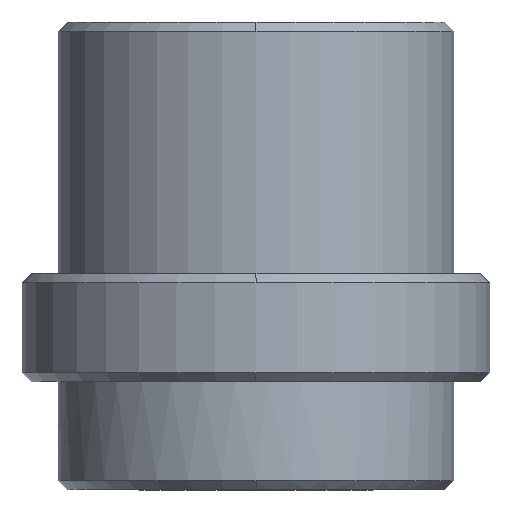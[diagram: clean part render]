
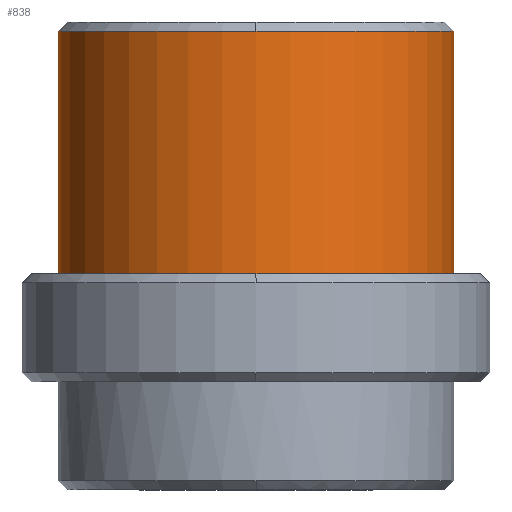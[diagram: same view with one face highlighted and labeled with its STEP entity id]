
A CAD part, front view. The second image highlights one B-rep face of the part: STEP entity #838.
In plain terms, the highlighted cylindrical face has radius 11 mm (diameter 22 mm), a partial arc.
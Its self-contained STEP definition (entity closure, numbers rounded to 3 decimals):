
#591=CARTESIAN_POINT('Vertex',(0.,-11.,19.5)) ;
#607=CARTESIAN_POINT('Vertex',(-11.,0.,19.5)) ;
#610=CARTESIAN_POINT('Axis2P3D Location',(0.,0.,19.5)) ;
#627=CARTESIAN_POINT('Axis2P3D Location',(0.,0.,19.5)) ;
#631=CARTESIAN_POINT('Vertex',(11.,0.,19.5)) ;
#807=CARTESIAN_POINT('Axis2P3D Location',(0.,0.,-7.3)) ;
#812=CARTESIAN_POINT('Line Origine',(-11.,0.,-7.3)) ;
#816=CARTESIAN_POINT('Vertex',(-11.,0.,6.)) ;
#819=CARTESIAN_POINT('Axis2P3D Location',(0.,0.,6.)) ;
#823=CARTESIAN_POINT('Vertex',(11.,0.,6.)) ;
#826=CARTESIAN_POINT('Line Origine',(11.,0.,-7.3)) ;
#611=DIRECTION('Axis2P3D Direction',(0.,0.,-1.)) ;
#628=DIRECTION('Axis2P3D Direction',(0.,0.,-1.)) ;
#808=DIRECTION('Axis2P3D Direction',(0.,0.,1.)) ;
#809=DIRECTION('Axis2P3D XDirection',(-1.,0.,0.)) ;
#813=DIRECTION('Vector Direction',(0.,0.,1.)) ;
#820=DIRECTION('Axis2P3D Direction',(0.,0.,1.)) ;
#827=DIRECTION('Vector Direction',(0.,0.,1.)) ;
#612=AXIS2_PLACEMENT_3D('Circle Axis2P3D',#610,#611,$) ;
#629=AXIS2_PLACEMENT_3D('Circle Axis2P3D',#627,#628,$) ;
#810=AXIS2_PLACEMENT_3D('Cylinder Axis2P3D',#807,#808,#809) ;
#821=AXIS2_PLACEMENT_3D('Circle Axis2P3D',#819,#820,$) ;
#832=ORIENTED_EDGE('',*,*,#818,.T.) ;
#833=ORIENTED_EDGE('',*,*,#825,.F.) ;
#834=ORIENTED_EDGE('',*,*,#830,.F.) ;
#835=ORIENTED_EDGE('',*,*,#633,.T.) ;
#836=ORIENTED_EDGE('',*,*,#614,.T.) ;
#814=VECTOR('Line Direction',#813,1.) ;
#828=VECTOR('Line Direction',#827,1.) ;
#838=ADVANCED_FACE('MANIFOLD_SOLID_BREP #1974',(#837),#811,.T.) ;
#613=CIRCLE('generated circle',#612,11.) ;
#630=CIRCLE('generated circle',#629,11.) ;
#822=CIRCLE('generated circle',#821,11.) ;
#811=CYLINDRICAL_SURFACE('generated cylinder',#810,11.) ;
#614=EDGE_CURVE('',#592,#608,#613,.T.) ;
#633=EDGE_CURVE('',#632,#592,#630,.T.) ;
#818=EDGE_CURVE('',#608,#817,#815,.F.) ;
#825=EDGE_CURVE('',#824,#817,#822,.F.) ;
#830=EDGE_CURVE('',#632,#824,#829,.F.) ;
#831=EDGE_LOOP('',(#832,#833,#834,#835,#836)) ;
#837=FACE_OUTER_BOUND('',#831,.T.) ;
#815=LINE('Line',#812,#814) ;
#829=LINE('Line',#826,#828) ;
#592=VERTEX_POINT('',#591) ;
#608=VERTEX_POINT('',#607) ;
#632=VERTEX_POINT('',#631) ;
#817=VERTEX_POINT('',#816) ;
#824=VERTEX_POINT('',#823) ;
